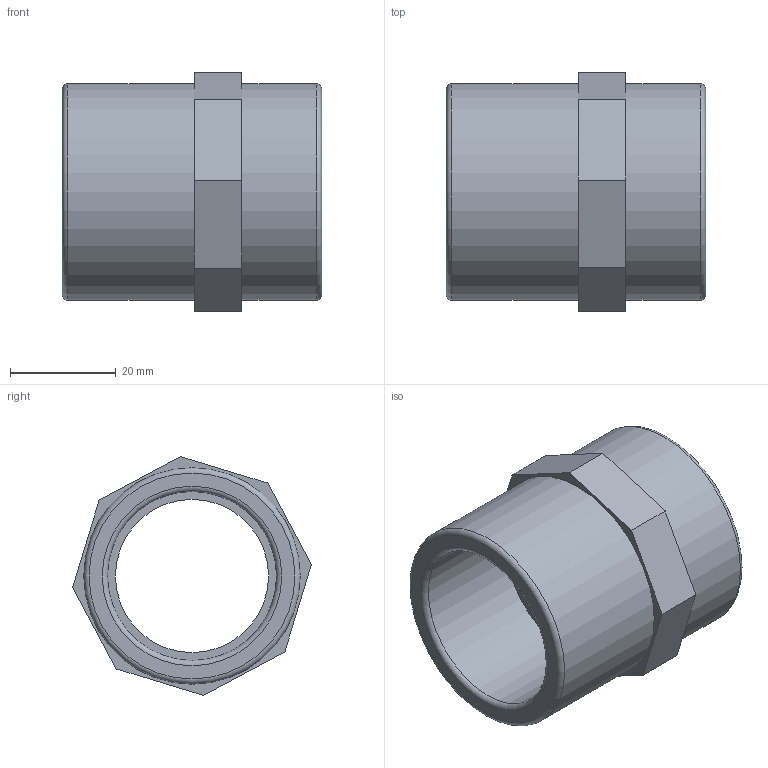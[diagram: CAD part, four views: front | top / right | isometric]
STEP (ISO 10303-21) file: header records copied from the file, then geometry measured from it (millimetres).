
FILE_DESCRIPTION(/* description */ (''),/* implementation_level */ '2;1');
FILE_NAME(/* name */ 'C:\Users\Gabriele\Desktop\disegni 3D\SO12\SO12032D.ipt.stp',/* time_stamp */ '2017-02-10T09:52:35+01:00',/* author */ ('Eugenio'),/* organization */ (''),/* preprocessor_version */ 'ST-DEVELOPER v16.5',/* originating_system */ 'Autodesk Inventor 2017',/* authorisation */ '');
FILE_SCHEMA (('AUTOMOTIVE_DESIGN { 1 0 10303 214 3 1 1 }'));
Length unit declared in the file: millimetre
Products named in the file (1): SO12032D
Bounding box: 49.1 x 45.24 x 45.24 mm (x, y, z)
Volume: 27812.7 mm3; surface area: 17880.2 mm2
Topology: 2 solids, 2 shells, 33 faces, 73 edges, 48 vertices
Faces by surface type: plane 16, cylinder 7, bspline 6, torus 4
Full cylindrical faces by diameter (mm): 29 x1, 32 x1, 33.25 x2, 41 x2
Entity records: 4525 total; most frequent: CARTESIAN_POINT 3850, ORIENTED_EDGE 122, DIRECTION 116, EDGE_CURVE 61, EDGE_LOOP 51, VERTEX_POINT 46, AXIS2_PLACEMENT_3D 46, FACE_OUTER_BOUND 33
